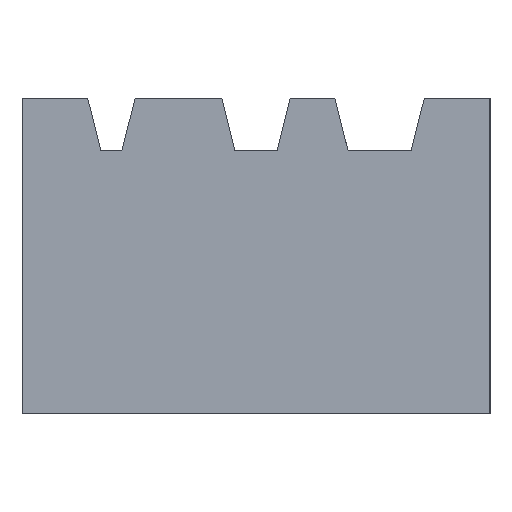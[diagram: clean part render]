
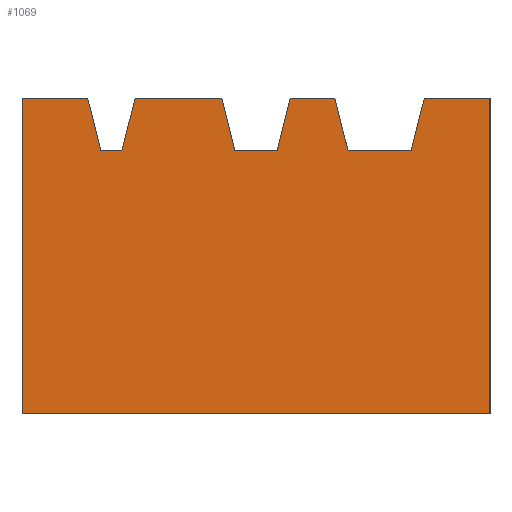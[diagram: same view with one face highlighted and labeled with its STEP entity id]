
A CAD part, left-side view. The second image highlights one B-rep face of the part: STEP entity #1069.
In plain terms, the highlighted planar face has unit normal (-1, 0, 0).
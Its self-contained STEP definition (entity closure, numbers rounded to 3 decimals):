
#21=DIRECTION('',(0.,-1.,0.));
#22=VECTOR('',#21,17.8);
#23=CARTESIAN_POINT('',(-38.05,8.9,0.));
#24=LINE('',#23,#22);
#340=DIRECTION('',(0.,0.,1.));
#341=VECTOR('',#340,12.);
#342=CARTESIAN_POINT('',(-38.05,-8.9,0.));
#343=LINE('',#342,#341);
#352=DIRECTION('',(0.,0.243,-0.97));
#353=VECTOR('',#352,2.062);
#354=CARTESIAN_POINT('',(-38.05,-6.4,12.));
#355=LINE('',#354,#353);
#356=DIRECTION('',(0.,-1.,0.));
#357=VECTOR('',#356,2.5);
#358=CARTESIAN_POINT('',(-38.05,-6.4,12.));
#359=LINE('',#358,#357);
#360=DIRECTION('',(0.,-1.,0.));
#361=VECTOR('',#360,2.5);
#362=CARTESIAN_POINT('',(-38.05,8.9,12.));
#363=LINE('',#362,#361);
#364=DIRECTION('',(0.,0.243,0.97));
#365=VECTOR('',#364,2.062);
#366=CARTESIAN_POINT('',(-38.05,5.9,10.));
#367=LINE('',#366,#365);
#368=DIRECTION('',(0.,1.,0.));
#369=VECTOR('',#368,0.8);
#370=CARTESIAN_POINT('',(-38.05,5.1,10.));
#371=LINE('',#370,#369);
#372=DIRECTION('',(0.,0.243,-0.97));
#373=VECTOR('',#372,2.062);
#374=CARTESIAN_POINT('',(-38.05,4.6,12.));
#375=LINE('',#374,#373);
#376=DIRECTION('',(0.,-1.,0.));
#377=VECTOR('',#376,3.3);
#378=CARTESIAN_POINT('',(-38.05,4.6,12.));
#379=LINE('',#378,#377);
#380=DIRECTION('',(0.,0.243,0.97));
#381=VECTOR('',#380,2.062);
#382=CARTESIAN_POINT('',(-38.05,0.8,10.));
#383=LINE('',#382,#381);
#384=DIRECTION('',(0.,1.,0.));
#385=VECTOR('',#384,1.6);
#386=CARTESIAN_POINT('',(-38.05,-0.8,10.));
#387=LINE('',#386,#385);
#388=DIRECTION('',(0.,0.243,-0.97));
#389=VECTOR('',#388,2.062);
#390=CARTESIAN_POINT('',(-38.05,-1.3,12.));
#391=LINE('',#390,#389);
#392=DIRECTION('',(0.,-1.,0.));
#393=VECTOR('',#392,1.7);
#394=CARTESIAN_POINT('',(-38.05,-1.3,12.));
#395=LINE('',#394,#393);
#396=DIRECTION('',(0.,0.243,0.97));
#397=VECTOR('',#396,2.062);
#398=CARTESIAN_POINT('',(-38.05,-3.5,10.));
#399=LINE('',#398,#397);
#400=DIRECTION('',(0.,1.,0.));
#401=VECTOR('',#400,2.4);
#402=CARTESIAN_POINT('',(-38.05,-5.9,10.));
#403=LINE('',#402,#401);
#466=DIRECTION('',(0.,0.,-1.));
#467=VECTOR('',#466,12.);
#468=CARTESIAN_POINT('',(-38.05,8.9,12.));
#469=LINE('',#468,#467);
#537=CARTESIAN_POINT('',(-38.05,8.9,0.));
#538=CARTESIAN_POINT('',(-38.05,-8.9,0.));
#539=VERTEX_POINT('',#537);
#540=VERTEX_POINT('',#538);
#570=CARTESIAN_POINT('',(-38.05,8.9,12.));
#572=VERTEX_POINT('',#570);
#574=CARTESIAN_POINT('',(-38.05,-8.9,12.));
#576=VERTEX_POINT('',#574);
#600=CARTESIAN_POINT('',(-38.05,-6.4,12.));
#601=CARTESIAN_POINT('',(-38.05,-5.9,10.));
#602=VERTEX_POINT('',#600);
#603=VERTEX_POINT('',#601);
#609=CARTESIAN_POINT('',(-38.05,-3.5,10.));
#610=VERTEX_POINT('',#609);
#611=CARTESIAN_POINT('',(-38.05,-3.,12.));
#612=VERTEX_POINT('',#611);
#613=CARTESIAN_POINT('',(-38.05,-1.3,12.));
#614=CARTESIAN_POINT('',(-38.05,-0.8,10.));
#615=VERTEX_POINT('',#613);
#616=VERTEX_POINT('',#614);
#622=CARTESIAN_POINT('',(-38.05,0.8,10.));
#623=VERTEX_POINT('',#622);
#624=CARTESIAN_POINT('',(-38.05,1.3,12.));
#625=VERTEX_POINT('',#624);
#653=CARTESIAN_POINT('',(-38.05,5.9,10.));
#654=VERTEX_POINT('',#653);
#655=CARTESIAN_POINT('',(-38.05,6.4,12.));
#656=VERTEX_POINT('',#655);
#657=CARTESIAN_POINT('',(-38.05,4.6,12.));
#658=CARTESIAN_POINT('',(-38.05,5.1,10.));
#659=VERTEX_POINT('',#657);
#660=VERTEX_POINT('',#658);
#1036=CARTESIAN_POINT('',(-38.05,8.9,0.));
#1037=DIRECTION('',(-1.,0.,0.));
#1038=DIRECTION('',(0.,-1.,0.));
#1039=AXIS2_PLACEMENT_3D('',#1036,#1037,#1038);
#1040=PLANE('',#1039);
#1042=ORIENTED_EDGE('',*,*,#1041,.F.);
#1043=ORIENTED_EDGE('',*,*,#934,.T.);
#1044=ORIENTED_EDGE('',*,*,#1028,.F.);
#1045=ORIENTED_EDGE('',*,*,#670,.F.);
#1047=ORIENTED_EDGE('',*,*,#1046,.F.);
#1048=ORIENTED_EDGE('',*,*,#1015,.T.);
#1050=ORIENTED_EDGE('',*,*,#1049,.F.);
#1052=ORIENTED_EDGE('',*,*,#1051,.F.);
#1054=ORIENTED_EDGE('',*,*,#1053,.F.);
#1055=ORIENTED_EDGE('',*,*,#994,.T.);
#1057=ORIENTED_EDGE('',*,*,#1056,.F.);
#1059=ORIENTED_EDGE('',*,*,#1058,.F.);
#1061=ORIENTED_EDGE('',*,*,#1060,.F.);
#1062=ORIENTED_EDGE('',*,*,#979,.T.);
#1064=ORIENTED_EDGE('',*,*,#1063,.F.);
#1066=ORIENTED_EDGE('',*,*,#1065,.F.);
#1067=EDGE_LOOP('',(#1042,#1043,#1044,#1045,#1047,#1048,#1050,#1052,#1054,#1055,
#1057,#1059,#1061,#1062,#1064,#1066));
#1068=FACE_OUTER_BOUND('',#1067,.F.);
#1069=ADVANCED_FACE('',(#1068),#1040,.T.);
#670=EDGE_CURVE('',#539,#540,#24,.T.);
#934=EDGE_CURVE('',#602,#576,#359,.T.);
#979=EDGE_CURVE('',#615,#612,#395,.T.);
#994=EDGE_CURVE('',#659,#625,#379,.T.);
#1015=EDGE_CURVE('',#572,#656,#363,.T.);
#1028=EDGE_CURVE('',#540,#576,#343,.T.);
#1041=EDGE_CURVE('',#602,#603,#355,.T.);
#1046=EDGE_CURVE('',#572,#539,#469,.T.);
#1049=EDGE_CURVE('',#654,#656,#367,.T.);
#1051=EDGE_CURVE('',#660,#654,#371,.T.);
#1053=EDGE_CURVE('',#659,#660,#375,.T.);
#1056=EDGE_CURVE('',#623,#625,#383,.T.);
#1058=EDGE_CURVE('',#616,#623,#387,.T.);
#1060=EDGE_CURVE('',#615,#616,#391,.T.);
#1063=EDGE_CURVE('',#610,#612,#399,.T.);
#1065=EDGE_CURVE('',#603,#610,#403,.T.);
